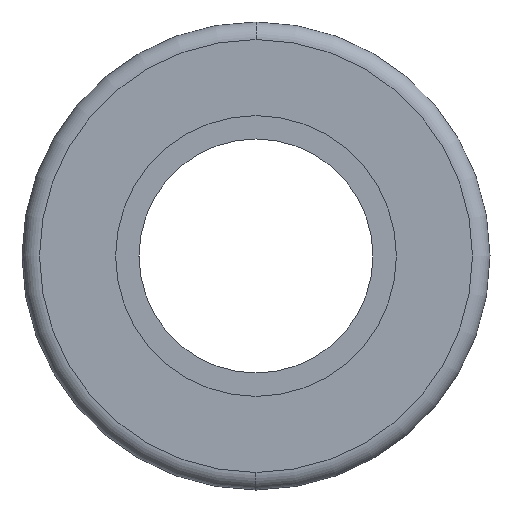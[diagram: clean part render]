
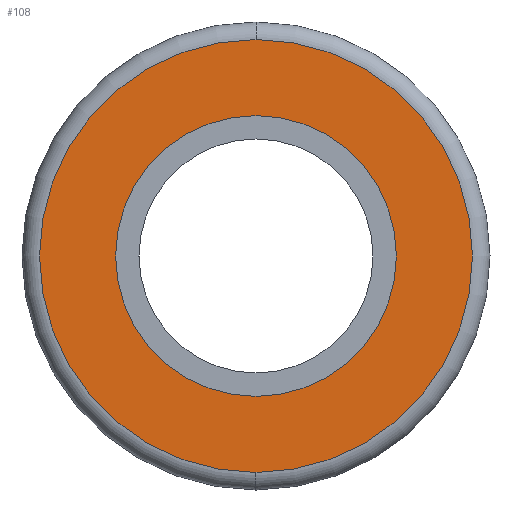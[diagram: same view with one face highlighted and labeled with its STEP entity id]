
A CAD part, left-side view. The second image highlights one B-rep face of the part: STEP entity #108.
In plain terms, the highlighted planar face has unit normal (-1, 0, 0).
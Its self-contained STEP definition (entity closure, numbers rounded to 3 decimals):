
#108 = ADVANCED_FACE( '', ( #185, #186 ), #187, .T. );
#185 = FACE_BOUND( '', #263, .T. );
#186 = FACE_OUTER_BOUND( '', #264, .T. );
#187 = PLANE( '', #265 );
#263 = EDGE_LOOP( '', ( #508, #509 ) );
#264 = EDGE_LOOP( '', ( #510, #511, #512 ) );
#265 = AXIS2_PLACEMENT_3D( '', #513, #514, #515 );
#508 = ORIENTED_EDGE( '', *, *, #568, .F. );
#509 = ORIENTED_EDGE( '', *, *, #567, .F. );
#510 = ORIENTED_EDGE( '', *, *, #520, .T. );
#511 = ORIENTED_EDGE( '', *, *, #589, .T. );
#512 = ORIENTED_EDGE( '', *, *, #521, .T. );
#513 = CARTESIAN_POINT( '', ( -12.5, 6.1, 0. ) );
#514 = DIRECTION( '', ( -1., 0., 0. ) );
#515 = DIRECTION( '', ( 0., 1., 0. ) );
#520 = EDGE_CURVE( '', #599, #597, #600, .T. );
#521 = EDGE_CURVE( '', #591, #599, #601, .T. );
#567 = EDGE_CURVE( '', #689, #685, #691, .T. );
#568 = EDGE_CURVE( '', #685, #689, #692, .T. );
#589 = EDGE_CURVE( '', #597, #591, #713, .T. );
#591 = VERTEX_POINT( '', #715 );
#597 = VERTEX_POINT( '', #721 );
#599 = VERTEX_POINT( '', #723 );
#600 = CIRCLE( '', #724, 7.4 );
#601 = CIRCLE( '', #725, 7.4 );
#685 = VERTEX_POINT( '', #827 );
#689 = VERTEX_POINT( '', #832 );
#691 = CIRCLE( '', #835, 4.8 );
#692 = CIRCLE( '', #836, 4.8 );
#713 = CIRCLE( '', #857, 7.4 );
#715 = CARTESIAN_POINT( '', ( -12.5, 0., 7.4 ) );
#721 = CARTESIAN_POINT( '', ( -12.5, 0., -7.4 ) );
#723 = CARTESIAN_POINT( '', ( -12.5, 7.4, 0. ) );
#724 = AXIS2_PLACEMENT_3D( '', #870, #871, #872 );
#725 = AXIS2_PLACEMENT_3D( '', #873, #874, #875 );
#827 = CARTESIAN_POINT( '', ( -12.5, 4.8, 0. ) );
#832 = CARTESIAN_POINT( '', ( -12.5, -4.8, 0. ) );
#835 = AXIS2_PLACEMENT_3D( '', #971, #972, #973 );
#836 = AXIS2_PLACEMENT_3D( '', #974, #975, #976 );
#857 = AXIS2_PLACEMENT_3D( '', #1037, #1038, #1039 );
#870 = CARTESIAN_POINT( '', ( -12.5, 0., 0. ) );
#871 = DIRECTION( '', ( -1., 0., 0. ) );
#872 = DIRECTION( '', ( 0., 1., 0. ) );
#873 = CARTESIAN_POINT( '', ( -12.5, 0., 0. ) );
#874 = DIRECTION( '', ( -1., 0., 0. ) );
#875 = DIRECTION( '', ( 0., 1., 0. ) );
#971 = CARTESIAN_POINT( '', ( -12.5, 0., 0. ) );
#972 = DIRECTION( '', ( -1., 0., 0. ) );
#973 = DIRECTION( '', ( 0., 1., 0. ) );
#974 = CARTESIAN_POINT( '', ( -12.5, 0., 0. ) );
#975 = DIRECTION( '', ( -1., 0., 0. ) );
#976 = DIRECTION( '', ( 0., 1., 0. ) );
#1037 = CARTESIAN_POINT( '', ( -12.5, 0., 0. ) );
#1038 = DIRECTION( '', ( -1., 0., 0. ) );
#1039 = DIRECTION( '', ( 0., 1., 0. ) );
